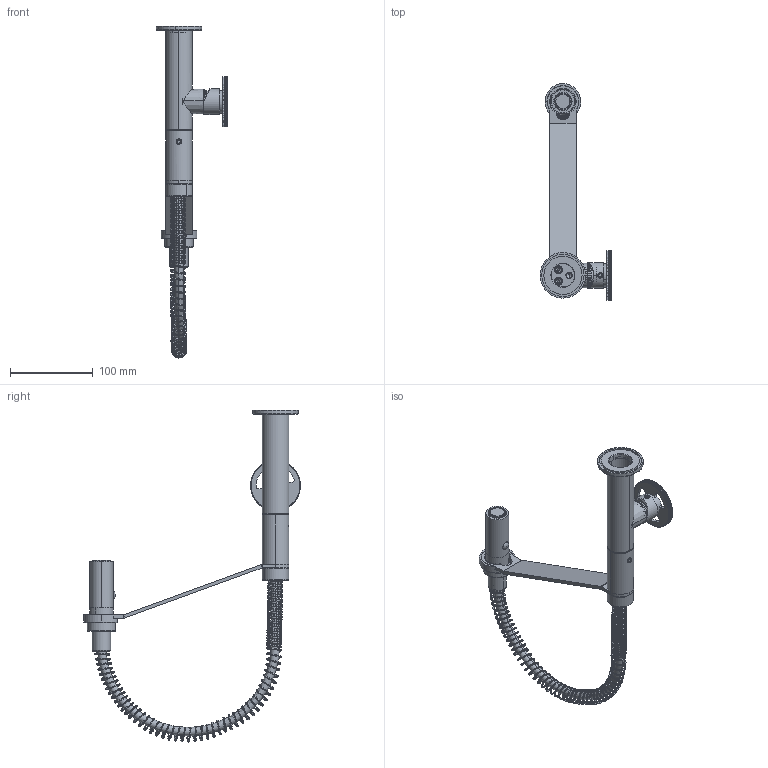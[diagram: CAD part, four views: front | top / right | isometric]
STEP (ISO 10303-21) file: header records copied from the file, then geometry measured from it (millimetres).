
FILE_DESCRIPTION (( 'STEP AP203' ), '1' );
FILE_NAME ('KT33M.STEP', '2025-02-07T10:00:21', ( '' ), ( '' ), 'SwSTEP 2.0', 'SolidWorks 2024', '' );
FILE_SCHEMA (( 'CONFIG_CONTROL_DESIGN' ));
Length unit declared in the file: millimetre
Products named in the file (32): C47.00.0023.01; C25.0481.00.1; C11.14.0019; C24.1555.00.0; C23.0824.01; C24.0119.00.2; C24.1464.00.1; C21.0649.00.0; C16.10.0001; C24.0370.00.3; C11.12.0006; C12.00.0004; C29.10.0007.01; C24.0617.00.0; C21.0648.00.1; C24.1044.00.2; C25.1585.00.0; C21.0619.00.1; C12.00.0054; C24.0029.00.1; AS539_00; C24.0371.00.2; C24.0480.00.2; C21.0652.00.1; C24.0120.00.1; AS543_00; C11.14.0004; C10.00.0013; C11.15.0005; KT33M; C24.1476.00.0; C11.12.0004
Assembly tree (35 placements, depth 4):
  KT33M
    C24.1555.00.0
    C25.1585.00.0
    C11.15.0005  x2
    C24.0617.00.0
    C24.0480.00.2
    C29.10.0007.01
    AS539_00
      C24.0370.00.3
      C24.0371.00.2
      C24.0120.00.1
      C24.0119.00.2
      C11.14.0019
      C24.0029.00.1
      C23.0824.01
      C12.00.0004
      C12.00.0054  x2
      C21.0649.00.0  x2
      C21.0648.00.1
      AS543_00
        C24.1464.00.1
        C24.1476.00.0
      C10.00.0013
      C47.00.0023.01
    C21.0652.00.1
    C11.14.0004
    C47.00.0023.01
    C21.0619.00.1
    C24.1044.00.2
    C16.10.0001
    C25.0481.00.1
    C11.12.0004
    C11.12.0006
Bounding box: 86.51 x 261.5 x 400.44 mm (x, y, z)
Volume: 268164.5 mm3; surface area: 163614.2 mm2
Topology: 37 solids, 47 shells, 2013 faces, 5470 edges, 3559 vertices
Faces by surface type: plane 845, cylinder 746, cone 239, bspline 108, torus 74, sphere 1
Entity records: 97429 total; most frequent: CARTESIAN_POINT 45172, DIRECTION 10135, ORIENTED_EDGE 10114, EDGE_CURVE 5287, AXIS2_PLACEMENT_3D 3685, VERTEX_POINT 3463, LINE 2765, VECTOR 2765
